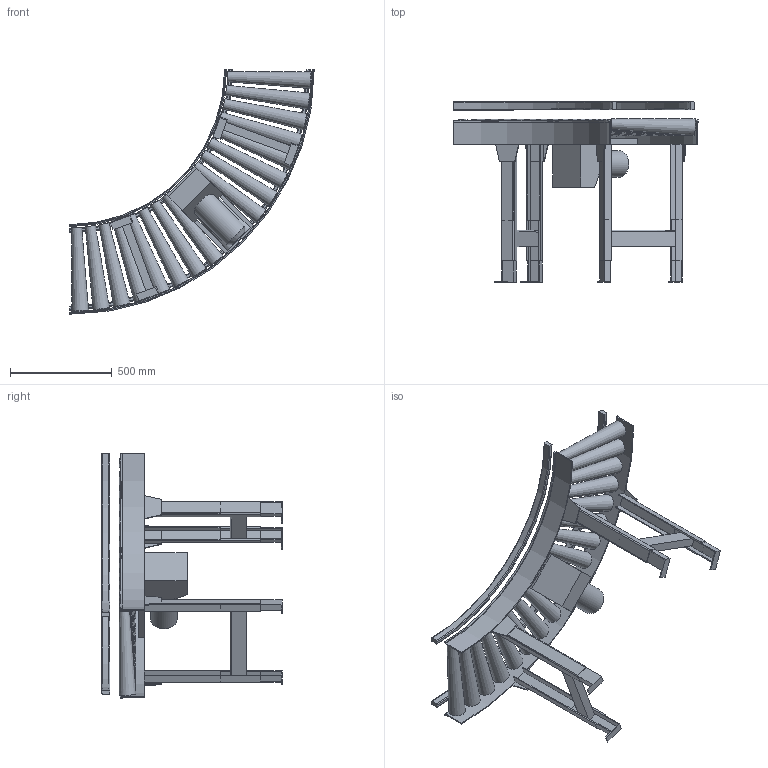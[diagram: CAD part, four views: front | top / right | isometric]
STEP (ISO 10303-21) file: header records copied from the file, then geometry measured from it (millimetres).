
FILE_DESCRIPTION((''),'2;1');
FILE_NAME('C:\Vault_Working_Folder\Designs\Inventor\Lättviktsmodeller\Klart\Midi\IRKR_IRUR_IRKV 50-420-90.stp','2012-11-13T11:41:47',('martin.samuelsson'),(''),'Autodesk Inventor 2013','Autodesk Inventor 2013','');
FILE_SCHEMA(('AUTOMOTIVE_DESIGN { 1 0 10303 214 1 1 1 1 }'));
Length unit declared in the file: millimetre
Products named in the file (1): IRKR_IRUR_IRKV 50-420-90
Bounding box: 1200 x 885 x 1200 mm (x, y, z)
Volume: 44277074.3 mm3; surface area: 4184396.8 mm2
Topology: 25 solids, 25 shells, 238 faces, 554 edges, 367 vertices
Faces by surface type: plane 184, cylinder 27, cone 19, torus 8
Full cylindrical faces by diameter (mm): 130 x1
Entity records: 6742 total; most frequent: CARTESIAN_POINT 1138, DIRECTION 1129, ORIENTED_EDGE 1066, EDGE_CURVE 533, VECTOR 415, LINE 415, VERTEX_POINT 366, AXIS2_PLACEMENT_3D 357
